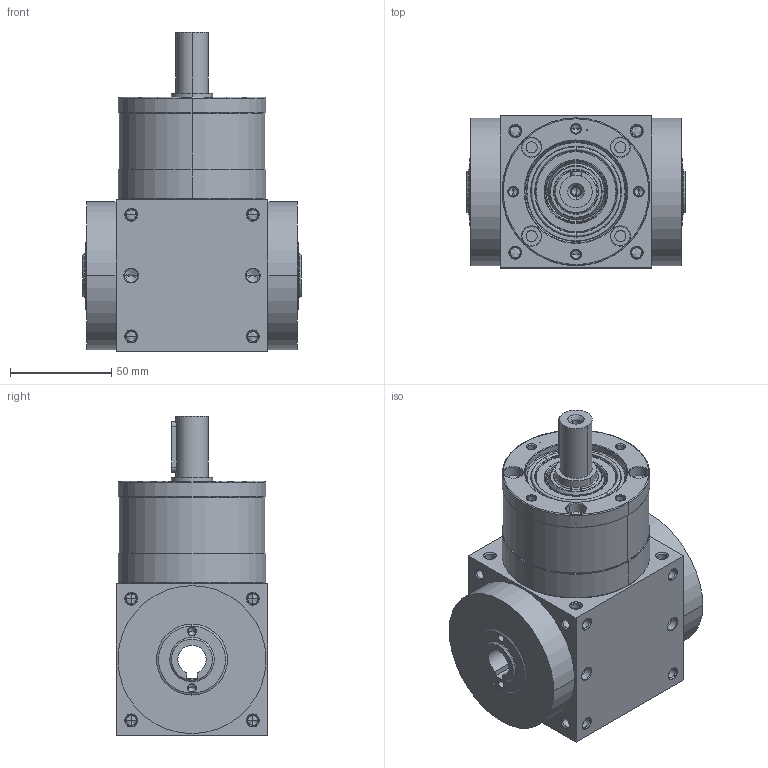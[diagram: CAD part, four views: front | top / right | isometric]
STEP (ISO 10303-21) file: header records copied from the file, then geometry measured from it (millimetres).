
FILE_DESCRIPTION((''),'2;1');
FILE_NAME('AT075H-1_ASM','2009-02-03T',('d00080'),(''),'PRO/ENGINEER BY PARAMETRIC TECHNOLOGY CORPORATION, 2006170','PRO/ENGINEER BY PARAMETRIC TECHNOLOGY CORPORATION, 2006170','');
FILE_SCHEMA(('CONFIG_CONTROL_DESIGN'));
Length unit declared in the file: millimetre
Products named in the file (6): AT075H-1; P1801300001; 22400071003; P1208300001; P0904301001; AT075H-1_ASM
Assembly tree (5 placements, depth 2):
  AT075H-1_ASM
    AT075H-1
    P1801300001
    22400071003
    P1208300001
    P0904301001
Bounding box: 108 x 75 x 157.5 mm (x, y, z)
Volume: 661179.4 mm3; surface area: 101657.3 mm2
Topology: 6 solids, 36 shells, 595 faces, 1489 edges, 878 vertices
Faces by surface type: cylinder 259, cone 218, plane 76, torus 38, bspline 4
Entity records: 18419 total; most frequent: CARTESIAN_POINT 4210, DIRECTION 3179, ORIENTED_EDGE 2716, EDGE_CURVE 1417, AXIS2_PLACEMENT_3D 1332, VERTEX_POINT 878, CIRCLE 722, EDGE_LOOP 692
